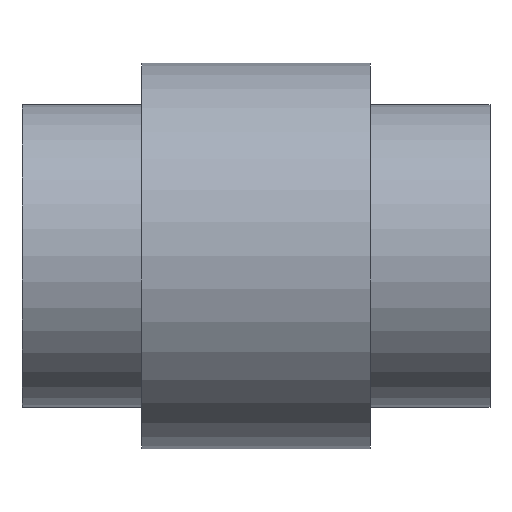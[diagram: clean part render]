
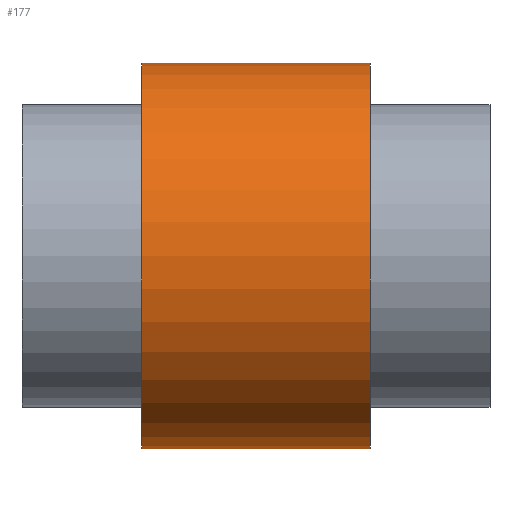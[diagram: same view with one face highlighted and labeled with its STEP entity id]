
A CAD part, top view. The second image highlights one B-rep face of the part: STEP entity #177.
In plain terms, the highlighted cylindrical face has radius 280 mm (diameter 560 mm), a partial arc.
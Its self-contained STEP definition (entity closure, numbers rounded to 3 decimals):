
#11=CARTESIAN_POINT('',(166.,0.,0.));
#12=DIRECTION('',(1.,0.,0.));
#13=DIRECTION('',(0.,1.,0.));
#14=AXIS2_PLACEMENT_3D('',#11,#12,#13);
#16=DIRECTION('',(-1.,0.,0.));
#17=VECTOR('',#16,332.);
#18=CARTESIAN_POINT('',(166.,280.,0.));
#19=LINE('',#18,#17);
#20=DIRECTION('',(-1.,0.,0.));
#21=VECTOR('',#20,332.);
#22=CARTESIAN_POINT('',(166.,-280.,0.));
#23=LINE('',#22,#21);
#34=CARTESIAN_POINT('',(-166.,0.,0.));
#35=DIRECTION('',(1.,0.,0.));
#36=DIRECTION('',(0.,1.,0.));
#37=AXIS2_PLACEMENT_3D('',#34,#35,#36);
#113=CARTESIAN_POINT('',(166.,280.,0.));
#114=CARTESIAN_POINT('',(-166.,280.,0.));
#115=VERTEX_POINT('',#113);
#116=VERTEX_POINT('',#114);
#117=CARTESIAN_POINT('',(166.,-280.,0.));
#118=CARTESIAN_POINT('',(-166.,-280.,0.));
#119=VERTEX_POINT('',#117);
#120=VERTEX_POINT('',#118);
#163=CARTESIAN_POINT('',(-374.,0.,0.));
#164=DIRECTION('',(1.,0.,0.));
#165=DIRECTION('',(0.,-1.,0.));
#166=AXIS2_PLACEMENT_3D('',#163,#164,#165);
#167=CYLINDRICAL_SURFACE('',#166,280.);
#169=ORIENTED_EDGE('',*,*,#168,.F.);
#170=ORIENTED_EDGE('',*,*,#150,.T.);
#172=ORIENTED_EDGE('',*,*,#171,.T.);
#174=ORIENTED_EDGE('',*,*,#173,.F.);
#175=EDGE_LOOP('',(#169,#170,#172,#174));
#176=FACE_OUTER_BOUND('',#175,.F.);
#177=ADVANCED_FACE('',(#176),#167,.T.);
#15=CIRCLE('',#14,280.);
#38=CIRCLE('',#37,280.);
#150=EDGE_CURVE('',#115,#119,#15,.T.);
#168=EDGE_CURVE('',#115,#116,#19,.T.);
#171=EDGE_CURVE('',#119,#120,#23,.T.);
#173=EDGE_CURVE('',#116,#120,#38,.T.);
